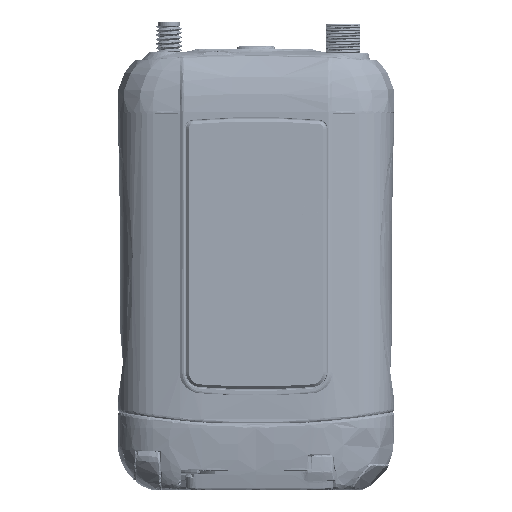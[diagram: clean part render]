
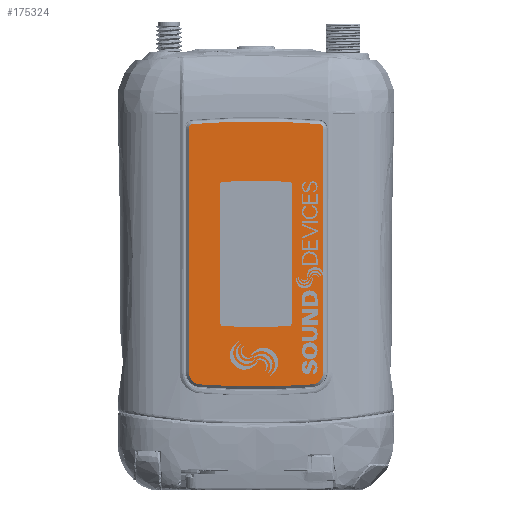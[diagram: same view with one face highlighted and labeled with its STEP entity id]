
A CAD part, top view. The second image highlights one B-rep face of the part: STEP entity #175324.
In plain terms, the highlighted planar face has unit normal (0, 0, 1) as drawn and (0, 1, 0) by its records, which use the part's own axes.
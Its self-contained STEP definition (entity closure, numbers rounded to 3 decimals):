
#5878=FACE_BOUND('',#57129,.T.);
#12075=CIRCLE('',#190829,131.05);
#12077=CIRCLE('',#190832,2.25);
#12079=CIRCLE('',#190836,0.85);
#12081=CIRCLE('',#190839,137.05);
#12083=CIRCLE('',#190842,0.85);
#12085=CIRCLE('',#190846,2.25);
#12090=CIRCLE('',#190856,0.7);
#12091=CIRCLE('',#190857,126.1);
#12092=CIRCLE('',#190858,0.7);
#12093=CIRCLE('',#190859,0.7);
#12094=CIRCLE('',#190860,126.1);
#12095=CIRCLE('',#190861,0.7);
#21995=LINE('',#442684,#32772);
#22001=LINE('',#442708,#32778);
#22009=LINE('',#442740,#32786);
#22010=LINE('',#442747,#32787);
#32772=VECTOR('',#229216,10.);
#32778=VECTOR('',#229242,10.);
#32786=VECTOR('',#229278,10.);
#32787=VECTOR('',#229285,10.);
#37118=PLANE('',#190855);
#46794=FACE_OUTER_BOUND('',#57128,.T.);
#57128=EDGE_LOOP('',(#156986,#156987,#156988,#156989,#156990,#156991,#156992,
#156993));
#57129=EDGE_LOOP('',(#156994,#156995,#156996,#156997,#156998,#156999,#157000,
#157001));
#80881=VERTEX_POINT('',#442667);
#80882=VERTEX_POINT('',#442669);
#80885=VERTEX_POINT('',#442676);
#80887=VERTEX_POINT('',#442682);
#80889=VERTEX_POINT('',#442688);
#80891=VERTEX_POINT('',#442694);
#80893=VERTEX_POINT('',#442700);
#80895=VERTEX_POINT('',#442706);
#80901=VERTEX_POINT('',#442732);
#80902=VERTEX_POINT('',#442733);
#80903=VERTEX_POINT('',#442735);
#80904=VERTEX_POINT('',#442737);
#80905=VERTEX_POINT('',#442739);
#80906=VERTEX_POINT('',#442741);
#80907=VERTEX_POINT('',#442743);
#80908=VERTEX_POINT('',#442745);
#106463=EDGE_CURVE('',#80881,#80882,#12075,.T.);
#106467=EDGE_CURVE('',#80885,#80881,#12077,.T.);
#106470=EDGE_CURVE('',#80887,#80885,#21995,.T.);
#106473=EDGE_CURVE('',#80889,#80887,#12079,.T.);
#106476=EDGE_CURVE('',#80891,#80889,#12081,.T.);
#106479=EDGE_CURVE('',#80893,#80891,#12083,.T.);
#106482=EDGE_CURVE('',#80895,#80893,#22001,.T.);
#106484=EDGE_CURVE('',#80882,#80895,#12085,.T.);
#106495=EDGE_CURVE('',#80901,#80902,#12090,.T.);
#106496=EDGE_CURVE('',#80903,#80901,#12091,.T.);
#106497=EDGE_CURVE('',#80904,#80903,#12092,.T.);
#106498=EDGE_CURVE('',#80905,#80904,#22009,.T.);
#106499=EDGE_CURVE('',#80906,#80905,#12093,.T.);
#106500=EDGE_CURVE('',#80907,#80906,#12094,.T.);
#106501=EDGE_CURVE('',#80908,#80907,#12095,.T.);
#106502=EDGE_CURVE('',#80902,#80908,#22010,.T.);
#156986=ORIENTED_EDGE('',*,*,#106463,.F.);
#156987=ORIENTED_EDGE('',*,*,#106467,.F.);
#156988=ORIENTED_EDGE('',*,*,#106470,.F.);
#156989=ORIENTED_EDGE('',*,*,#106473,.F.);
#156990=ORIENTED_EDGE('',*,*,#106476,.F.);
#156991=ORIENTED_EDGE('',*,*,#106479,.F.);
#156992=ORIENTED_EDGE('',*,*,#106482,.F.);
#156993=ORIENTED_EDGE('',*,*,#106484,.F.);
#156994=ORIENTED_EDGE('',*,*,#106495,.F.);
#156995=ORIENTED_EDGE('',*,*,#106496,.F.);
#156996=ORIENTED_EDGE('',*,*,#106497,.F.);
#156997=ORIENTED_EDGE('',*,*,#106498,.F.);
#156998=ORIENTED_EDGE('',*,*,#106499,.F.);
#156999=ORIENTED_EDGE('',*,*,#106500,.F.);
#157000=ORIENTED_EDGE('',*,*,#106501,.F.);
#157001=ORIENTED_EDGE('',*,*,#106502,.F.);
#175324=ADVANCED_FACE('',(#46794,#5878),#37118,.T.);
#190829=AXIS2_PLACEMENT_3D('',#442670,#229201,#229202);
#190832=AXIS2_PLACEMENT_3D('',#442678,#229209,#229210);
#190836=AXIS2_PLACEMENT_3D('',#442690,#229221,#229222);
#190839=AXIS2_PLACEMENT_3D('',#442696,#229228,#229229);
#190842=AXIS2_PLACEMENT_3D('',#442702,#229235,#229236);
#190846=AXIS2_PLACEMENT_3D('',#442711,#229246,#229247);
#190855=AXIS2_PLACEMENT_3D('',#442731,#229270,#229271);
#190856=AXIS2_PLACEMENT_3D('',#442734,#229272,#229273);
#190857=AXIS2_PLACEMENT_3D('',#442736,#229274,#229275);
#190858=AXIS2_PLACEMENT_3D('',#442738,#229276,#229277);
#190859=AXIS2_PLACEMENT_3D('',#442742,#229279,#229280);
#190860=AXIS2_PLACEMENT_3D('',#442744,#229281,#229282);
#190861=AXIS2_PLACEMENT_3D('',#442746,#229283,#229284);
#229201=DIRECTION('center_axis',(0.,-1.,0.));
#229202=DIRECTION('ref_axis',(-0.075,0.,0.997));
#229209=DIRECTION('center_axis',(0.,-1.,0.));
#229210=DIRECTION('ref_axis',(0.078,0.,0.997));
#229216=DIRECTION('',(0.,0.,1.));
#229221=DIRECTION('center_axis',(0.,-1.,0.));
#229222=DIRECTION('ref_axis',(1.,0.,0.));
#229228=DIRECTION('center_axis',(0.,-1.,0.));
#229229=DIRECTION('ref_axis',(0.084,0.,-0.996));
#229235=DIRECTION('center_axis',(0.,-1.,0.));
#229236=DIRECTION('ref_axis',(-0.084,0.,-0.996));
#229242=DIRECTION('',(0.,0.,-1.));
#229246=DIRECTION('center_axis',(0.,-1.,0.));
#229247=DIRECTION('ref_axis',(-1.,0.,0.));
#229270=DIRECTION('center_axis',(0.,1.,0.));
#229271=DIRECTION('ref_axis',(0.,0.,1.));
#229272=DIRECTION('center_axis',(0.,1.,0.));
#229273=DIRECTION('ref_axis',(0.047,0.,0.999));
#229274=DIRECTION('center_axis',(0.,1.,0.));
#229275=DIRECTION('ref_axis',(-0.047,0.,0.999));
#229276=DIRECTION('center_axis',(0.,1.,0.));
#229277=DIRECTION('ref_axis',(-1.,0.,0.));
#229278=DIRECTION('',(0.,0.,-1.));
#229279=DIRECTION('center_axis',(0.,1.,0.));
#229280=DIRECTION('ref_axis',(-0.047,0.,-0.999));
#229281=DIRECTION('center_axis',(0.,1.,0.));
#229282=DIRECTION('ref_axis',(0.047,0.,-0.999));
#229283=DIRECTION('center_axis',(0.,1.,0.));
#229284=DIRECTION('ref_axis',(1.,0.,0.));
#229285=DIRECTION('',(0.,0.,1.));
#442667=CARTESIAN_POINT('',(10.276,1.,23.946));
#442669=CARTESIAN_POINT('',(-10.276,1.,23.946));
#442670=CARTESIAN_POINT('Origin',(0.,1.,-106.7));
#442676=CARTESIAN_POINT('',(12.35,1.,21.703));
#442678=CARTESIAN_POINT('Origin',(10.1,1.,21.703));
#442682=CARTESIAN_POINT('',(12.35,1.,-23.014));
#442684=CARTESIAN_POINT('',(12.35,1.,12.352));
#442688=CARTESIAN_POINT('',(11.572,1.,-23.861));
#442690=CARTESIAN_POINT('Origin',(11.5,1.,-23.014));
#442694=CARTESIAN_POINT('',(-11.572,1.,-23.861));
#442696=CARTESIAN_POINT('Origin',(0.,1.,112.7));
#442700=CARTESIAN_POINT('',(-12.35,1.,-23.014));
#442702=CARTESIAN_POINT('Origin',(-11.5,1.,-23.014));
#442706=CARTESIAN_POINT('',(-12.35,1.,21.703));
#442708=CARTESIAN_POINT('',(-12.35,1.,-10.007));
#442711=CARTESIAN_POINT('Origin',(-10.1,1.,21.703));
#442731=CARTESIAN_POINT('Origin',(0.,1.,3.));
#442732=CARTESIAN_POINT('',(-5.983,1.,-13.258));
#442733=CARTESIAN_POINT('',(-6.65,1.,-12.559));
#442734=CARTESIAN_POINT('Origin',(-5.95,1.,-12.559));
#442735=CARTESIAN_POINT('',(5.983,1.,-13.258));
#442736=CARTESIAN_POINT('Origin',(0.,1.,112.7));
#442737=CARTESIAN_POINT('',(6.65,1.,-12.559));
#442738=CARTESIAN_POINT('Origin',(5.95,1.,-12.559));
#442739=CARTESIAN_POINT('',(6.65,1.,12.559));
#442740=CARTESIAN_POINT('',(6.65,1.,7.779));
#442741=CARTESIAN_POINT('',(5.983,1.,13.258));
#442742=CARTESIAN_POINT('Origin',(5.95,1.,12.559));
#442743=CARTESIAN_POINT('',(-5.983,1.,13.258));
#442744=CARTESIAN_POINT('Origin',(0.,1.,-112.7));
#442745=CARTESIAN_POINT('',(-6.65,1.,12.559));
#442746=CARTESIAN_POINT('Origin',(-5.95,1.,12.559));
#442747=CARTESIAN_POINT('',(-6.65,1.,-4.779));
